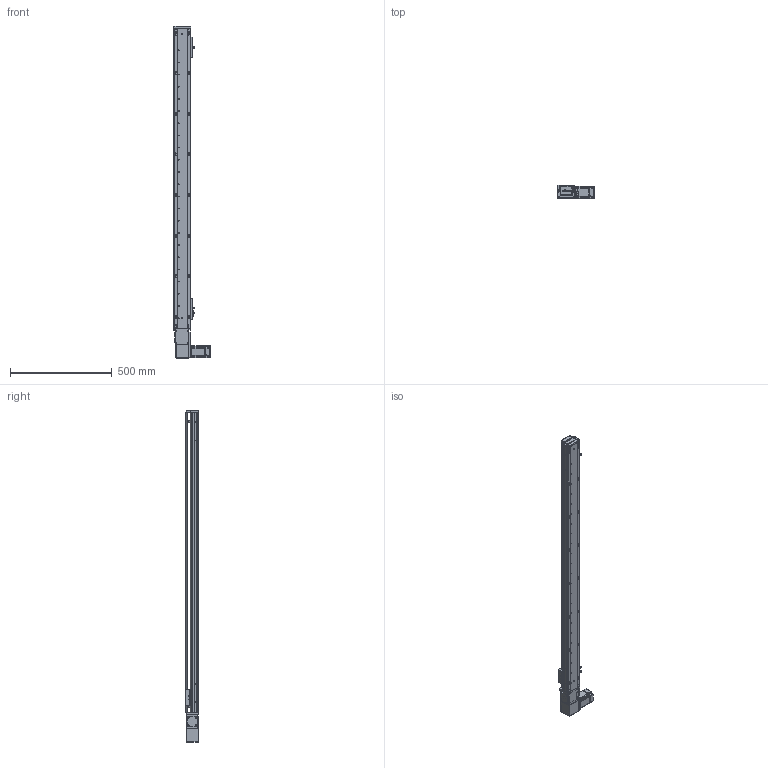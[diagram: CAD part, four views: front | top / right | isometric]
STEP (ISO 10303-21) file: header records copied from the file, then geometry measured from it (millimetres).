
FILE_DESCRIPTION (( 'STEP AP203' ), '1' );
FILE_NAME ('RY80-T-300-RK.SLDASM_1300.step', '2021-03-01T02:07:47', ( '盈信电脑' ), ( '东莞市道滘镇水果街19号' ), 'SwSTEP 2.0', 'SolidWorks 2012', '' );
FILE_SCHEMA (( 'CONFIG_CONTROL_DESIGN' ));
Length unit declared in the file: millimetre
Products named in the file (20): RY80-T-300-RK.SLDASM_1300; RY100-T粣創揤踡裔; 滅袉蝶18-10; RY80-T翋肮祭謫裔啣; RY80-T肮祭謫俋欶; RY80-T-M4蹟翐; RY80-T萇儂假蚾啣; RY80-T粣創揤踡輸; RY80-T肮祭湍揤輸2; RY80-T肮祭湍揤輸1; 侂狟200W萇儂; RY80-T-翋肮祭謫釱; 1; 覜茼ん672; RY80-T綴裔啣; RY80俋离覜茼え; 672嫖萇羲壽假蚾釱; RY80-T-300-RK倰第菁釱_1300; RY80-T-300-RK倰第奻裔啣_1300; RY80-T肮祭謫臏賑輸
Assembly tree (25 placements, depth 3):
  RY80-T-300-RK.SLDASM_1300
    RY80-T-300-RK倰第菁釱_1300
    RY80-T肮祭謫臏賑輸
    RY80-T-300-RK倰第奻裔啣_1300
    RY80-T綴裔啣
    672嫖萇羲壽假蚾釱  x2
    覜茼ん672  x3
    RY80俋离覜茼え
    侂狟200W萇儂
      1
    RY80-T-翋肮祭謫釱
    RY80-T萇儂假蚾啣
    RY80-T肮祭湍揤輸1
    RY80-T肮祭湍揤輸2
    RY80-T粣創揤踡輸
    RY80-T-M4蹟翐  x2
    RY80-T翋肮祭謫裔啣  x2
    RY80-T肮祭謫俋欶
    滅袉蝶18-10  x2
    RY100-T粣創揤踡裔
Bounding box: 180 x 65 x 1635 mm (x, y, z)
Volume: 2582041.6 mm3; surface area: 1088868 mm2
Topology: 24 solids, 24 shells, 2538 faces, 7003 edges, 4553 vertices
Faces by surface type: plane 1342, cylinder 991, cone 149, bspline 56
Entity records: 80232 total; most frequent: CARTESIAN_POINT 19551, ORIENTED_EDGE 12450, DIRECTION 11704, EDGE_CURVE 6225, VERTEX_POINT 4094, AXIS2_PLACEMENT_3D 3959, VECTOR 3786, LINE 3786
